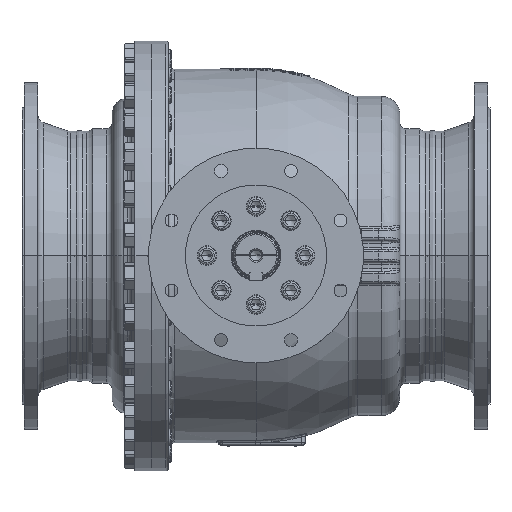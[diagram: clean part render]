
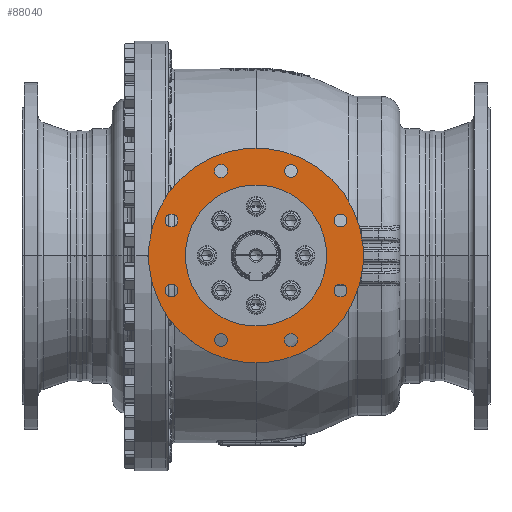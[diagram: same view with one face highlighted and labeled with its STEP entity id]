
A CAD part, top view. The second image highlights one B-rep face of the part: STEP entity #88040.
In plain terms, the highlighted planar face has unit normal (0, 0, 1).
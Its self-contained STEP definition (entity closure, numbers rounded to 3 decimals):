
#9891=CARTESIAN_POINT('',(0.,0.,442.5));
#9892=DIRECTION('',(0.,0.,1.));
#9893=DIRECTION('',(0.707,0.707,0.));
#9894=AXIS2_PLACEMENT_3D('',#9891,#9892,#9893);
#9896=CARTESIAN_POINT('',(0.,0.,442.5));
#9897=DIRECTION('',(0.,0.,-1.));
#9898=DIRECTION('',(0.707,0.707,0.));
#9899=AXIS2_PLACEMENT_3D('',#9896,#9897,#9898);
#9901=CARTESIAN_POINT('',(-137.658,57.02,442.5));
#9902=DIRECTION('',(0.,0.,-1.));
#9903=DIRECTION('',(-0.707,-0.707,0.));
#9904=AXIS2_PLACEMENT_3D('',#9901,#9902,#9903);
#9906=CARTESIAN_POINT('',(-137.658,57.02,442.5));
#9907=DIRECTION('',(0.,0.,-1.));
#9908=DIRECTION('',(0.707,0.707,0.));
#9909=AXIS2_PLACEMENT_3D('',#9906,#9907,#9908);
#9911=CARTESIAN_POINT('',(-57.02,137.658,442.5));
#9912=DIRECTION('',(0.,0.,-1.));
#9913=DIRECTION('',(-1.,0.,0.));
#9914=AXIS2_PLACEMENT_3D('',#9911,#9912,#9913);
#9916=CARTESIAN_POINT('',(-57.02,137.658,442.5));
#9917=DIRECTION('',(0.,0.,-1.));
#9918=DIRECTION('',(1.,0.,0.));
#9919=AXIS2_PLACEMENT_3D('',#9916,#9917,#9918);
#9921=CARTESIAN_POINT('',(57.02,137.658,442.5));
#9922=DIRECTION('',(0.,0.,-1.));
#9923=DIRECTION('',(-0.707,0.707,0.));
#9924=AXIS2_PLACEMENT_3D('',#9921,#9922,#9923);
#9926=CARTESIAN_POINT('',(57.02,137.658,442.5));
#9927=DIRECTION('',(0.,0.,-1.));
#9928=DIRECTION('',(0.707,-0.707,0.));
#9929=AXIS2_PLACEMENT_3D('',#9926,#9927,#9928);
#9931=CARTESIAN_POINT('',(137.658,57.02,442.5));
#9932=DIRECTION('',(0.,0.,-1.));
#9933=DIRECTION('',(0.,1.,0.));
#9934=AXIS2_PLACEMENT_3D('',#9931,#9932,#9933);
#9936=CARTESIAN_POINT('',(137.658,57.02,442.5));
#9937=DIRECTION('',(0.,0.,-1.));
#9938=DIRECTION('',(0.,-1.,0.));
#9939=AXIS2_PLACEMENT_3D('',#9936,#9937,#9938);
#9941=CARTESIAN_POINT('',(137.658,-57.02,442.5));
#9942=DIRECTION('',(0.,0.,-1.));
#9943=DIRECTION('',(0.707,0.707,0.));
#9944=AXIS2_PLACEMENT_3D('',#9941,#9942,#9943);
#9946=CARTESIAN_POINT('',(137.658,-57.02,442.5));
#9947=DIRECTION('',(0.,0.,-1.));
#9948=DIRECTION('',(-0.707,-0.707,0.));
#9949=AXIS2_PLACEMENT_3D('',#9946,#9947,#9948);
#9951=CARTESIAN_POINT('',(57.02,-137.658,442.5));
#9952=DIRECTION('',(0.,0.,-1.));
#9953=DIRECTION('',(1.,0.,0.));
#9954=AXIS2_PLACEMENT_3D('',#9951,#9952,#9953);
#9956=CARTESIAN_POINT('',(57.02,-137.658,442.5));
#9957=DIRECTION('',(0.,0.,-1.));
#9958=DIRECTION('',(-1.,0.,0.));
#9959=AXIS2_PLACEMENT_3D('',#9956,#9957,#9958);
#9961=CARTESIAN_POINT('',(-57.02,-137.658,442.5));
#9962=DIRECTION('',(0.,0.,-1.));
#9963=DIRECTION('',(0.707,-0.707,0.));
#9964=AXIS2_PLACEMENT_3D('',#9961,#9962,#9963);
#9966=CARTESIAN_POINT('',(-57.02,-137.658,442.5));
#9967=DIRECTION('',(0.,0.,-1.));
#9968=DIRECTION('',(-0.707,0.707,0.));
#9969=AXIS2_PLACEMENT_3D('',#9966,#9967,#9968);
#9971=CARTESIAN_POINT('',(-137.658,-57.02,442.5));
#9972=DIRECTION('',(0.,0.,-1.));
#9973=DIRECTION('',(0.,-1.,0.));
#9974=AXIS2_PLACEMENT_3D('',#9971,#9972,#9973);
#9976=CARTESIAN_POINT('',(-137.658,-57.02,442.5));
#9977=DIRECTION('',(0.,0.,-1.));
#9978=DIRECTION('',(0.,1.,0.));
#9979=AXIS2_PLACEMENT_3D('',#9976,#9977,#9978);
#9985=CARTESIAN_POINT('',(0.,0.,442.5));
#9986=DIRECTION('',(0.,0.,-1.));
#9987=DIRECTION('',(0.707,0.707,0.));
#9988=AXIS2_PLACEMENT_3D('',#9985,#9986,#9987);
#9994=CARTESIAN_POINT('',(0.,0.,442.5));
#9995=DIRECTION('',(0.,0.,1.));
#9996=DIRECTION('',(0.707,0.707,0.));
#9997=AXIS2_PLACEMENT_3D('',#9994,#9995,#9996);
#64364=CARTESIAN_POINT('',(81.317,81.317,442.5));
#64366=VERTEX_POINT('',#64364);
#64368=CARTESIAN_POINT('',(-81.317,-81.317,442.5));
#64370=VERTEX_POINT('',#64368);
#64441=CARTESIAN_POINT('',(123.744,123.744,442.5));
#64443=VERTEX_POINT('',#64441);
#64445=CARTESIAN_POINT('',(-123.744,-123.744,442.5));
#64447=VERTEX_POINT('',#64445);
#64520=CARTESIAN_POINT('',(-145.083,49.595,442.5));
#64521=CARTESIAN_POINT('',(-130.233,64.444,442.5));
#64522=VERTEX_POINT('',#64520);
#64523=VERTEX_POINT('',#64521);
#64528=CARTESIAN_POINT('',(-67.52,137.658,442.5));
#64529=CARTESIAN_POINT('',(-46.52,137.658,442.5));
#64530=VERTEX_POINT('',#64528);
#64531=VERTEX_POINT('',#64529);
#64536=CARTESIAN_POINT('',(49.595,145.083,442.5));
#64537=CARTESIAN_POINT('',(64.444,130.233,442.5));
#64538=VERTEX_POINT('',#64536);
#64539=VERTEX_POINT('',#64537);
#64544=CARTESIAN_POINT('',(137.658,67.52,442.5));
#64545=CARTESIAN_POINT('',(137.658,46.52,442.5));
#64546=VERTEX_POINT('',#64544);
#64547=VERTEX_POINT('',#64545);
#64552=CARTESIAN_POINT('',(145.083,-49.595,442.5));
#64553=CARTESIAN_POINT('',(130.233,-64.444,442.5));
#64554=VERTEX_POINT('',#64552);
#64555=VERTEX_POINT('',#64553);
#64560=CARTESIAN_POINT('',(67.52,-137.658,442.5));
#64561=CARTESIAN_POINT('',(46.52,-137.658,442.5));
#64562=VERTEX_POINT('',#64560);
#64563=VERTEX_POINT('',#64561);
#64568=CARTESIAN_POINT('',(-49.595,-145.083,442.5));
#64569=CARTESIAN_POINT('',(-64.444,-130.233,442.5));
#64570=VERTEX_POINT('',#64568);
#64571=VERTEX_POINT('',#64569);
#64576=CARTESIAN_POINT('',(-137.658,-67.52,442.5));
#64577=CARTESIAN_POINT('',(-137.658,-46.52,442.5));
#64578=VERTEX_POINT('',#64576);
#64579=VERTEX_POINT('',#64577);
#87977=CARTESIAN_POINT('',(0.,0.,442.5));
#87978=DIRECTION('',(0.,0.,1.));
#87979=DIRECTION('',(0.707,0.707,0.));
#87980=AXIS2_PLACEMENT_3D('',#87977,#87978,#87979);
#87981=PLANE('',#87980);
#87982=ORIENTED_EDGE('',*,*,#87970,.F.);
#87983=ORIENTED_EDGE('',*,*,#87959,.T.);
#87984=EDGE_LOOP('',(#87982,#87983));
#87985=FACE_OUTER_BOUND('',#87984,.F.);
#87987=ORIENTED_EDGE('',*,*,#87986,.F.);
#87989=ORIENTED_EDGE('',*,*,#87988,.T.);
#87990=EDGE_LOOP('',(#87987,#87989));
#87991=FACE_BOUND('',#87990,.F.);
#87993=ORIENTED_EDGE('',*,*,#87992,.F.);
#87995=ORIENTED_EDGE('',*,*,#87994,.F.);
#87996=EDGE_LOOP('',(#87993,#87995));
#87997=FACE_BOUND('',#87996,.F.);
#87999=ORIENTED_EDGE('',*,*,#87998,.F.);
#88001=ORIENTED_EDGE('',*,*,#88000,.F.);
#88002=EDGE_LOOP('',(#87999,#88001));
#88003=FACE_BOUND('',#88002,.F.);
#88005=ORIENTED_EDGE('',*,*,#88004,.F.);
#88007=ORIENTED_EDGE('',*,*,#88006,.F.);
#88008=EDGE_LOOP('',(#88005,#88007));
#88009=FACE_BOUND('',#88008,.F.);
#88011=ORIENTED_EDGE('',*,*,#88010,.F.);
#88013=ORIENTED_EDGE('',*,*,#88012,.F.);
#88014=EDGE_LOOP('',(#88011,#88013));
#88015=FACE_BOUND('',#88014,.F.);
#88017=ORIENTED_EDGE('',*,*,#88016,.F.);
#88019=ORIENTED_EDGE('',*,*,#88018,.F.);
#88020=EDGE_LOOP('',(#88017,#88019));
#88021=FACE_BOUND('',#88020,.F.);
#88023=ORIENTED_EDGE('',*,*,#88022,.F.);
#88025=ORIENTED_EDGE('',*,*,#88024,.F.);
#88026=EDGE_LOOP('',(#88023,#88025));
#88027=FACE_BOUND('',#88026,.F.);
#88029=ORIENTED_EDGE('',*,*,#88028,.F.);
#88031=ORIENTED_EDGE('',*,*,#88030,.F.);
#88032=EDGE_LOOP('',(#88029,#88031));
#88033=FACE_BOUND('',#88032,.F.);
#88035=ORIENTED_EDGE('',*,*,#88034,.F.);
#88037=ORIENTED_EDGE('',*,*,#88036,.F.);
#88038=EDGE_LOOP('',(#88035,#88037));
#88039=FACE_BOUND('',#88038,.F.);
#88040=ADVANCED_FACE('',(#87985,#87991,#87997,#88003,#88009,#88015,#88021,
#88027,#88033,#88039),#87981,.T.);
#9895=CIRCLE('',#9894,175.);
#9900=CIRCLE('',#9899,175.);
#9905=CIRCLE('',#9904,10.5);
#9910=CIRCLE('',#9909,10.5);
#9915=CIRCLE('',#9914,10.5);
#9920=CIRCLE('',#9919,10.5);
#9925=CIRCLE('',#9924,10.5);
#9930=CIRCLE('',#9929,10.5);
#9935=CIRCLE('',#9934,10.5);
#9940=CIRCLE('',#9939,10.5);
#9945=CIRCLE('',#9944,10.5);
#9950=CIRCLE('',#9949,10.5);
#9955=CIRCLE('',#9954,10.5);
#9960=CIRCLE('',#9959,10.5);
#9965=CIRCLE('',#9964,10.5);
#9970=CIRCLE('',#9969,10.5);
#9975=CIRCLE('',#9974,10.5);
#9980=CIRCLE('',#9979,10.5);
#9989=CIRCLE('',#9988,115.);
#9998=CIRCLE('',#9997,115.);
#87959=EDGE_CURVE('',#64443,#64447,#9900,.T.);
#87970=EDGE_CURVE('',#64443,#64447,#9895,.T.);
#87986=EDGE_CURVE('',#64366,#64370,#9989,.T.);
#87988=EDGE_CURVE('',#64366,#64370,#9998,.T.);
#87992=EDGE_CURVE('',#64522,#64523,#9905,.T.);
#87994=EDGE_CURVE('',#64523,#64522,#9910,.T.);
#87998=EDGE_CURVE('',#64530,#64531,#9915,.T.);
#88000=EDGE_CURVE('',#64531,#64530,#9920,.T.);
#88004=EDGE_CURVE('',#64538,#64539,#9925,.T.);
#88006=EDGE_CURVE('',#64539,#64538,#9930,.T.);
#88010=EDGE_CURVE('',#64546,#64547,#9935,.T.);
#88012=EDGE_CURVE('',#64547,#64546,#9940,.T.);
#88016=EDGE_CURVE('',#64554,#64555,#9945,.T.);
#88018=EDGE_CURVE('',#64555,#64554,#9950,.T.);
#88022=EDGE_CURVE('',#64562,#64563,#9955,.T.);
#88024=EDGE_CURVE('',#64563,#64562,#9960,.T.);
#88028=EDGE_CURVE('',#64570,#64571,#9965,.T.);
#88030=EDGE_CURVE('',#64571,#64570,#9970,.T.);
#88034=EDGE_CURVE('',#64578,#64579,#9975,.T.);
#88036=EDGE_CURVE('',#64579,#64578,#9980,.T.);
